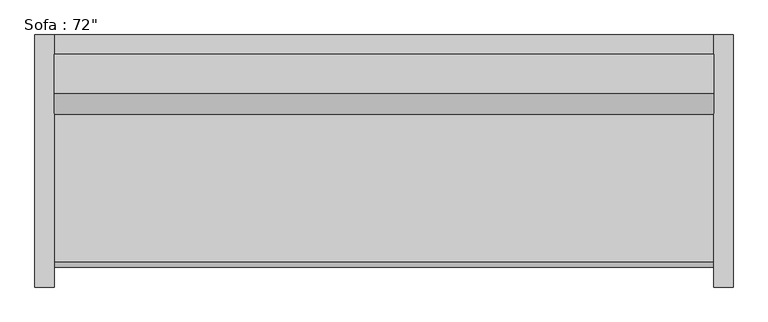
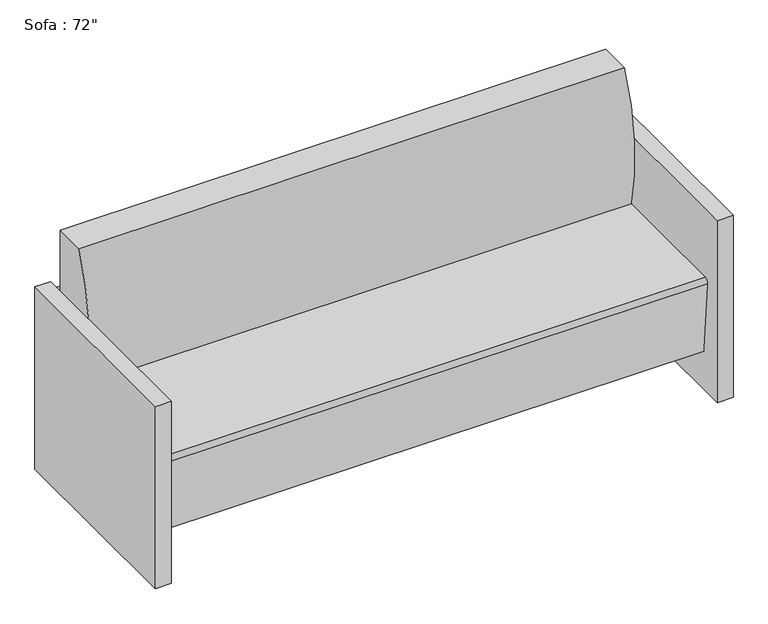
"""IFC4 building model written with IfcOpenShell, lengths in millimetres: furniture geometry."""

from ifc_helpers import new_model, si_unit, point, frame, frame_2d, origin, origin_with_axes, place, context, project, spatial, polyline, circle_curve, trimmed, segment, composite_curve, outline, extrude, source, transform, mapped, element, save


def furniture_4ef38d96(model_context):
    return source(origin(), model_context, "Body", "SweptSolid", [
        extrude(outline(polyline([(-793.2295082, 425.5540984), (-793.2295082, 476.3540984), (933.9704918, 476.3540984), (933.9704918, 425.5540984), (-793.2295082, 425.5540984)])), frame((0.0, 0.0, 457.2), z_axis=(0.0, 0.0, 1.0), x_axis=(1.0, 0.0, 0.0)), (0.0, 0.0, 1.0), 127.0),
        extrude(outline(polyline([(-793.2295082, 425.5540984), (-793.2295082, 476.3540984), (933.9704918, 476.3540984), (933.9704918, 425.5540984), (-793.2295082, 425.5540984)])), frame((0.0, 0.0, 266.7), z_axis=(0.0, 0.0, 1.0), x_axis=(1.0, 0.0, 0.0)), (0.0, 0.0, 1.0), 127.0),
        extrude(outline(polyline([(-793.2295082, 425.5540984), (-793.2295082, 476.3540984), (933.9704918, 476.3540984), (933.9704918, 425.5540984), (-793.2295082, 425.5540984)])), frame((0.0, 0.0, 76.2), z_axis=(0.0, 0.0, 1.0), x_axis=(1.0, 0.0, 0.0)), (0.0, 0.0, 1.0), 127.0),
        extrude(outline(composite_curve([segment(trimmed(circle_curve(frame_2d((926.517198, 542.5300036)), 660.4), [point((286.1764935, 381.0))], [point((323.9540984, 812.8))], False, "CARTESIAN"), True, "CONTINUOUS"), segment(polyline([(323.9540984, 812.8), (425.5540984, 812.8), (425.5540984, 127.9665467), (-111.108343, 127.9665467), (-132.0379563, 367.1931221)]), True, "CONTINUOUS"), segment(trimmed(circle_curve(frame_2d((-119.3862837, 368.3)), 12.7), [point((-132.0379563, 367.1931221))], [point((-119.3862837, 381.0))], False, "CARTESIAN"), True, "CONTINUOUS"), segment(polyline([(-119.3862837, 381.0), (286.1764935, 381.0)]), True, "CONTINUOUS")], self_intersect=False)), frame((-793.2295082, 0.0, 0.0), z_axis=(1.0, 0.0, 0.0), x_axis=(0.0, 1.0, 0.0)), (0.0, 0.0, 1.0), 1727.2),
        extrude(outline(polyline([(-793.2295082, 476.3540984), (-793.2295082, -184.0459016), (-844.0295082, -184.0459016), (-844.0295082, 476.3540984), (-793.2295082, 476.3540984)])), origin_with_axes(), (0.0, 0.0, 1.0), 609.6),
        extrude(outline(polyline([(984.7704918, 476.3540984), (984.7704918, -184.0459016), (933.9704918, -184.0459016), (933.9704918, 476.3540984), (984.7704918, 476.3540984)])), origin_with_axes(), (0.0, 0.0, 1.0), 609.6),
    ])


if __name__ == "__main__":
    model = new_model("IFC4")
    model_context = context("Model", 3, world=origin())
    ifc_project = project(units=[si_unit("LENGTHUNIT", "METRE", prefix="MILLI")], contexts=[model_context])
    site = spatial("IfcSite", under=ifc_project)
    building = spatial("IfcBuilding", under=site)
    placement = place(None, origin())
    furniture_shape = furniture_4ef38d96(model_context)
    element("IfcFurniture", 1, ObjectType="Sofa : 72\"", at=placement, inside=building, context=model_context, shape_type="MappedRepresentation", body=[
        mapped(furniture_shape, transform((0.0, 0.0, 0.0), x_axis=(1.0, 0.0, 0.0), y_axis=(0.0, 1.0, 0.0), z_axis=(0.0, 0.0, 1.0))),
    ])
    save(model, "model.ifc")
